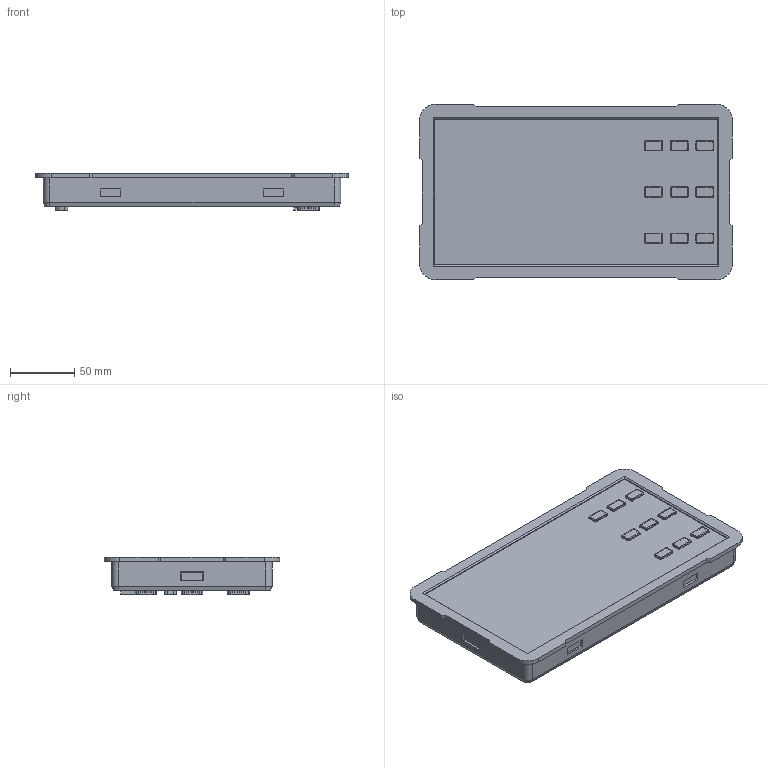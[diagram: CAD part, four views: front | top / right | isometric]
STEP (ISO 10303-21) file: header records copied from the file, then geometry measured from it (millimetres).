
FILE_DESCRIPTION(/* description */ (''),/* implementation_level */ '2;1');
FILE_NAME(/* name */ 'PREDVADECI_PANELOVA.step',/* time_stamp */ '2023-11-14T16:21:53+01:00',/* author */ (''),/* organization */ (''),/* preprocessor_version */ 'ST-DEVELOPER v20',/* originating_system */ 'Autodesk Translation Framework v12.14.0.127',/* authorisation */ '');
FILE_SCHEMA (('AUTOMOTIVE_DESIGN { 1 0 10303 214 3 1 1 }'));
Products named in the file (1): PREDVADECI_PANELOVA
Bounding box: 243.6 x 136.6 x 29.12 mm (x, y, z)
Volume: 659297.7 mm3; surface area: 101011.8 mm2
Topology: 1 solids, 13 shells, 2753 faces, 7005 edges, 4418 vertices
Faces by surface type: plane 926, cylinder 844, bspline 627, torus 236, sphere 108, cone 12
Full cylindrical faces by diameter (mm): 0.84 x36, 1.04 x36, 1.14 x36, 2.2 x16
Entity records: 122133 total; most frequent: CARTESIAN_POINT 59500, ORIENTED_EDGE 13818, DIRECTION 11789, EDGE_CURVE 6909, VERTEX_POINT 4418, AXIS2_PLACEMENT_3D 4287, LINE 3215, VECTOR 3215
